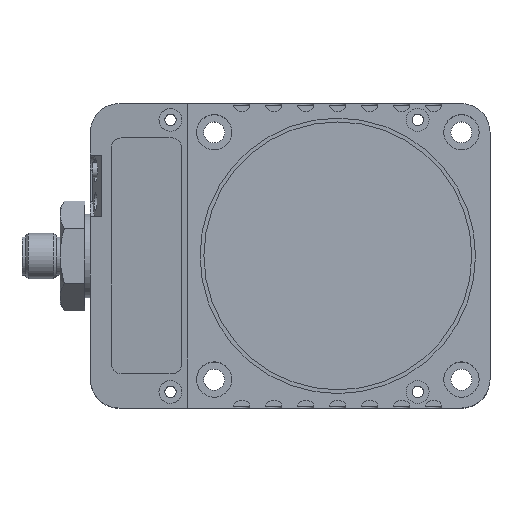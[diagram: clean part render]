
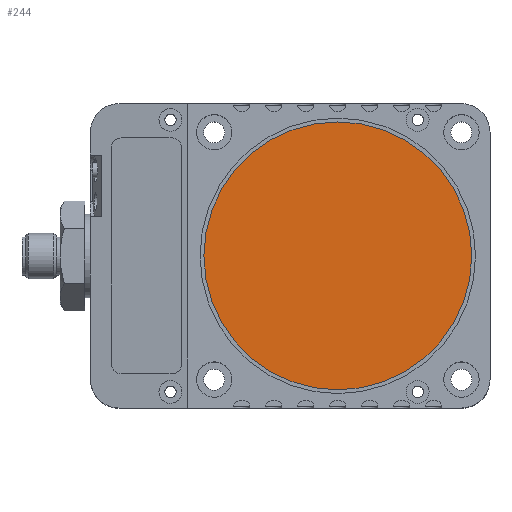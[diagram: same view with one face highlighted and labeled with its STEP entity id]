
A CAD part, top view. The second image highlights one B-rep face of the part: STEP entity #244.
In plain terms, the highlighted planar face has unit normal (0, 0, 1).
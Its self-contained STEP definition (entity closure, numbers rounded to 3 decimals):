
#244 = ADVANCED_FACE( '', ( #676 ), #677, .T. );
#676 = FACE_OUTER_BOUND( '', #1194, .T. );
#677 = PLANE( '', #1195 );
#1194 = EDGE_LOOP( '', ( #2696, #2697 ) );
#1195 = AXIS2_PLACEMENT_3D( '', #2698, #2699, #2700 );
#2696 = ORIENTED_EDGE( '', *, *, #3471, .T. );
#2697 = ORIENTED_EDGE( '', *, *, #3784, .T. );
#2698 = CARTESIAN_POINT( '', ( 0., 0., 24. ) );
#2699 = DIRECTION( '', ( 0., 0., 1. ) );
#2700 = DIRECTION( '', ( 1., 0., 0. ) );
#3471 = EDGE_CURVE( '', #4222, #4219, #4223, .T. );
#3784 = EDGE_CURVE( '', #4219, #4222, #4741, .T. );
#4219 = VERTEX_POINT( '', #5358 );
#4222 = VERTEX_POINT( '', #5362 );
#4223 = CIRCLE( '', #5363, 35.2 );
#4741 = CIRCLE( '', #6106, 35.2 );
#5358 = CARTESIAN_POINT( '', ( 47.8, 0., 24. ) );
#5362 = CARTESIAN_POINT( '', ( 118.2, 0., 24. ) );
#5363 = AXIS2_PLACEMENT_3D( '', #6851, #6852, #6853 );
#6106 = AXIS2_PLACEMENT_3D( '', #7340, #7341, #7342 );
#6851 = CARTESIAN_POINT( '', ( 83., 0., 24. ) );
#6852 = DIRECTION( '', ( 0., 0., 1. ) );
#6853 = DIRECTION( '', ( -1., 0., 0. ) );
#7340 = CARTESIAN_POINT( '', ( 83., 0., 24. ) );
#7341 = DIRECTION( '', ( 0., 0., 1. ) );
#7342 = DIRECTION( '', ( -1., 0., 0. ) );
